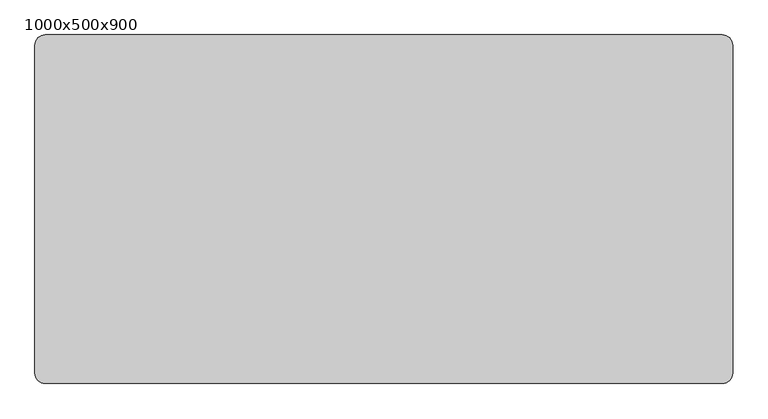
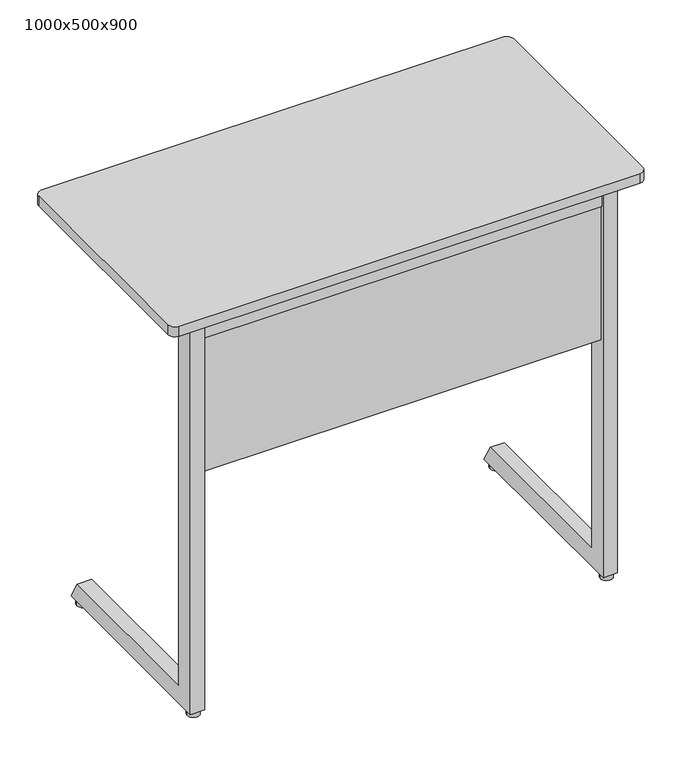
"""IFC4 building model written with IfcOpenShell, lengths in millimetres: furniture geometry, Trivia Light : 1000x500x900."""

from ifc_helpers import new_model, si_unit, point, frame, frame_2d, origin, origin_with_axes, place, context, project, spatial, polyline, circle_curve, trimmed, segment, composite_curve, outline, extrude, source, transform, mapped, element, save


def furniture_1000x500x900_0e950f99(model_context):
    return source(origin(), model_context, "Body", "SweptSolid", [
        extrude(outline(polyline([(434.5100173, 878.0), (419.9996059, 846.4981092), (54.0, 846.4977978), (54.0, 878.0), (434.5100173, 878.0)])), frame((-364.7535601, 0.0, 0.0), z_axis=(1.0, 0.0, 0.0), x_axis=(0.0, 1.0, 0.0)), (0.0, 0.0, 1.0), 30.0),
        extrude(outline(polyline([(873.7997437, -367.7502136), (850.730957, -367.7502136), (850.730957, -399.8065042), (855.0394353, -411.6439509), (852.2203574, -412.6700113), (847.730957, -400.3354852), (847.730957, -364.7502136), (873.7997437, -364.7502136), (873.7997437, -367.7502136)])), frame((0.0, 215.0, 0.0), z_axis=(0.0, 1.0, 0.0), x_axis=(0.0, 0.0, 1.0)), (0.0, 0.0, 1.0), 30.0),
        extrude(outline(polyline([(873.7997437, 367.7535601), (873.7997437, 364.7535601), (847.730957, 364.7535601), (847.730957, 400.3388316), (852.2203574, 412.6733577), (855.0394353, 411.6472973), (850.730957, 399.8098507), (850.730957, 367.7535601), (873.7997437, 367.7535601)])), frame((0.0, 215.0, 0.0), z_axis=(0.0, 1.0, 0.0), x_axis=(0.0, 0.0, 1.0)), (0.0, 0.0, 1.0), 30.0),
        extrude(outline(composite_curve([segment(trimmed(circle_curve(frame_2d((-435.0, 35.0)), 13.0), [point((-448.0, 35.0))], [point((-422.0, 35.0))], False, "CARTESIAN"), True, "CONTINUOUS"), segment(trimmed(circle_curve(frame_2d((-435.0, 35.0)), 13.0), [point((-422.0, 35.0))], [point((-448.0, 35.0))], False, "CARTESIAN"), True, "CONTINUOUS")], self_intersect=False)), origin_with_axes(), (0.0, 0.0, 1.0), 13.0905762),
        extrude(outline(composite_curve([segment(trimmed(circle_curve(frame_2d((435.0, 35.0)), 13.0), [point((422.0, 35.0))], [point((448.0, 35.0))], False, "CARTESIAN"), True, "CONTINUOUS"), segment(trimmed(circle_curve(frame_2d((435.0, 35.0)), 13.0), [point((448.0, 35.0))], [point((422.0, 35.0))], False, "CARTESIAN"), True, "CONTINUOUS")], self_intersect=False)), origin_with_axes(), (0.0, 0.0, 1.0), 13.0905762),
        extrude(outline(composite_curve([segment(trimmed(circle_curve(frame_2d((435.0, 437.5)), 13.0), [point((422.0, 437.5))], [point((448.0, 437.5))], False, "CARTESIAN"), True, "CONTINUOUS"), segment(trimmed(circle_curve(frame_2d((435.0, 437.5)), 13.0), [point((448.0, 437.5))], [point((422.0, 437.5))], False, "CARTESIAN"), True, "CONTINUOUS")], self_intersect=False)), origin_with_axes(), (0.0, 0.0, 1.0), 13.0905762),
        extrude(outline(composite_curve([segment(trimmed(circle_curve(frame_2d((-435.0, 437.5)), 13.0), [point((-448.0, 437.5))], [point((-422.0, 437.5))], False, "CARTESIAN"), True, "CONTINUOUS"), segment(trimmed(circle_curve(frame_2d((-435.0, 437.5)), 13.0), [point((-422.0, 437.5))], [point((-448.0, 437.5))], False, "CARTESIAN"), True, "CONTINUOUS")], self_intersect=False)), origin_with_axes(), (0.0, 0.0, 1.0), 13.0905762),
        extrude(outline(polyline([(434.5100173, 878.0), (419.9996059, 846.4981092), (54.0, 846.4977978), (54.0, 878.0), (434.5100173, 878.0)])), frame((334.7535601, 0.0, 0.0), z_axis=(1.0, 0.0, 0.0), x_axis=(0.0, 1.0, 0.0)), (0.0, 0.0, 1.0), 30.0),
        extrude(outline(composite_curve([segment(trimmed(circle_curve(frame_2d((485.0, 485.0)), 15.0), [point((485.0, 500.0))], [point((500.0, 485.0))], False, "CARTESIAN"), True, "CONTINUOUS"), segment(polyline([(500.0, 485.0), (500.0, 15.0)]), True, "CONTINUOUS"), segment(trimmed(circle_curve(frame_2d((485.0, 15.0)), 15.0), [point((500.0, 15.0))], [point((485.0, 0.0))], False, "CARTESIAN"), True, "CONTINUOUS"), segment(polyline([(485.0, 0.0), (-485.0, 0.0)]), True, "CONTINUOUS"), segment(trimmed(circle_curve(frame_2d((-485.0, 15.0)), 15.0), [point((-485.0, 0.0))], [point((-500.0, 15.0))], False, "CARTESIAN"), True, "CONTINUOUS"), segment(polyline([(-500.0, 15.0), (-500.0, 485.0)]), True, "CONTINUOUS"), segment(trimmed(circle_curve(frame_2d((-485.0, 485.0)), 15.0), [point((-500.0, 485.0))], [point((-485.0, 500.0))], False, "CARTESIAN"), True, "CONTINUOUS"), segment(polyline([(-485.0, 500.0), (485.0, 500.0)]), True, "CONTINUOUS")], self_intersect=False)), frame((0.0, 0.0, 878.0), z_axis=(0.0, 0.0, 1.0), x_axis=(1.0, 0.0, 0.0)), (0.0, 0.0, 1.0), 22.0),
        extrude(outline(polyline([(419.7534307, 54.0), (419.7534307, 24.0), (-419.7534307, 24.0), (-419.7534307, 54.0), (419.7534307, 54.0)])), frame((0.0, 0.0, 836.0), z_axis=(0.0, 0.0, 1.0), x_axis=(1.0, 0.0, 0.0)), (0.0, 0.0, 1.0), 42.0),
        extrude(outline(polyline([(62.0, 51.5905762), (432.1448423, 51.5905762), (454.8944033, 11.5905762), (20.0, 11.5905762), (20.0, 878.0), (62.0, 878.0), (62.0, 51.5905762)])), frame((-449.7535601, 0.0, 0.0), z_axis=(1.0, 0.0, 0.0), x_axis=(0.0, 1.0, 0.0)), (0.0, 0.0, 1.0), 30.0001294),
        extrude(outline(polyline([(62.0, 51.5905762), (432.1448423, 51.5905762), (454.8944033, 11.5905762), (20.0, 11.5905762), (20.0, 878.0), (62.0, 878.0), (62.0, 51.5905762)])), frame((419.7534307, 0.0, 0.0), z_axis=(1.0, 0.0, 0.0), x_axis=(0.0, 1.0, 0.0)), (0.0, 0.0, 1.0), 30.0001294),
        extrude(outline(polyline([(419.7534307, 45.9187166), (419.7534307, 27.9321552), (-419.7534307, 27.9321552), (-419.7534307, 45.9187166), (419.7534307, 45.9187166)])), frame((0.0, 0.0, 536.5950628), z_axis=(0.0, 0.0, 1.0), x_axis=(1.0, 0.0, 0.0)), (0.0, 0.0, 1.0), 299.4049372),
    ])


if __name__ == "__main__":
    model = new_model("IFC4")
    model_context = context("Model", 3, world=origin())
    ifc_project = project(units=[si_unit("LENGTHUNIT", "METRE", prefix="MILLI")], contexts=[model_context])
    site = spatial("IfcSite", under=ifc_project)
    building = spatial("IfcBuilding", under=site)
    placement = place(None, origin())
    furniture_1000x500x900_shape = furniture_1000x500x900_0e950f99(model_context)
    element("IfcFurniture", 1, ObjectType="Trivia Light : 1000x500x900", at=placement, inside=building, context=model_context, shape_type="MappedRepresentation", body=[
        mapped(furniture_1000x500x900_shape, transform((0.0, 0.0, 0.0), x_axis=(1.0, 0.0, 0.0), y_axis=(0.0, 1.0, 0.0), z_axis=(0.0, 0.0, 1.0))),
    ])
    save(model, "model.ifc")
